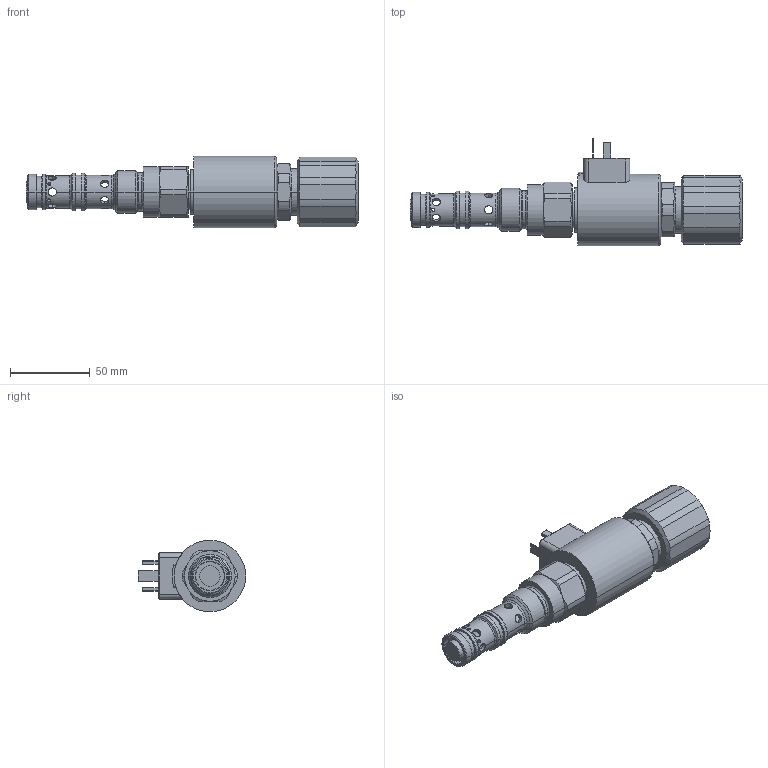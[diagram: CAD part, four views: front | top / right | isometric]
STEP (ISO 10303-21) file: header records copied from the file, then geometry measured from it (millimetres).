
FILE_DESCRIPTION((''),'2;1');
FILE_NAME('SF32P_C3_H60_E1_M10_ASM','2020-12-08T',('l.soukupova'),(''),'PRO/ENGINEER BY PARAMETRIC TECHNOLOGY CORPORATION, 2015440','PRO/ENGINEER BY PARAMETRIC TECHNOLOGY CORPORATION, 2015440','');
FILE_SCHEMA(('AUTOMOTIVE_DESIGN { 1 0 10303 214 1 1 1 1 }'));
Length unit declared in the file: millimetre
Products named in the file (6): SF32P_C3_HXX; C22B_E1; 43143200; 43143300; 431446; SF32P_C3_H60_E1_M10_ASM
Assembly tree (5 placements, depth 2):
  SF32P_C3_H60_E1_M10_ASM
    SF32P_C3_HXX
    C22B_E1
    43143200
    43143300
    431446
Bounding box: 208.8 x 67.5 x 45 mm (x, y, z)
Volume: 182771.1 mm3; surface area: 60989.6 mm2
Topology: 6 solids, 12 shells, 442 faces, 1073 edges, 713 vertices
Faces by surface type: cylinder 184, plane 118, cone 80, torus 60
Entity records: 20424 total; most frequent: CARTESIAN_POINT 5786, DIRECTION 2371, ORIENTED_EDGE 2030, PRESENTATION_STYLE_ASSIGNMENT 1129, STYLED_ITEM 1095, CURVE_STYLE 1083, EDGE_CURVE 1027, AXIS2_PLACEMENT_3D 961
